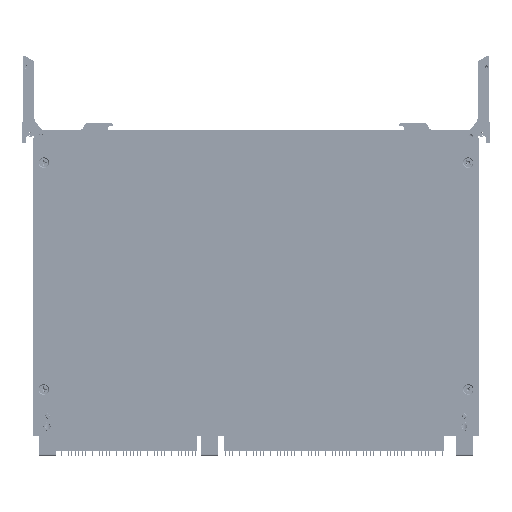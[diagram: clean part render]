
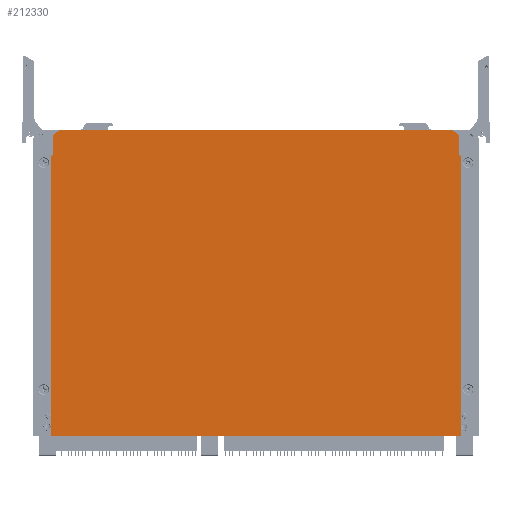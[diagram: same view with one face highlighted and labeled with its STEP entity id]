
A CAD part, left-side view. The second image highlights one B-rep face of the part: STEP entity #212330.
In plain terms, the highlighted planar face has unit normal (-1, 0, 0) as drawn and (0, 1, 0) by its records, which use the part's own axes.
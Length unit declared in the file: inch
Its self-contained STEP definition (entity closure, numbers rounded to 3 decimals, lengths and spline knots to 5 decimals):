
#8544 = EDGE_CURVE ( 'NONE', #48399, #148004, #143914, .T. ) ;
#11153 = CARTESIAN_POINT ( 'NONE',  ( 4.16791, 0.11, 6.20913 ) ) ;
#11584 = CARTESIAN_POINT ( 'NONE',  ( -4.16791, 0.11, 6.20913 ) ) ;
#12592 = EDGE_CURVE ( 'NONE', #68062, #207496, #255963, .T. ) ;
#13932 = AXIS2_PLACEMENT_3D ( 'NONE', #84746, #233951, #106158 ) ;
#14094 = ORIENTED_EDGE ( 'NONE', *, *, #70584, .F. ) ;
#14168 = EDGE_CURVE ( 'NONE', #141771, #218588, #138589, .T. ) ;
#16994 = EDGE_CURVE ( 'NONE', #83313, #207496, #34519, .T. ) ;
#18198 = EDGE_CURVE ( 'NONE', #141771, #144205, #250459, .T. ) ;
#20337 = CARTESIAN_POINT ( 'NONE',  ( 4.05476, 0.11, 6.28836 ) ) ;
#22831 = DIRECTION ( 'NONE',  ( 0., 0., -1. ) ) ;
#23994 = EDGE_CURVE ( 'NONE', #174824, #38008, #182121, .T. ) ;
#24102 = ORIENTED_EDGE ( 'NONE', *, *, #254211, .F. ) ;
#28964 = CARTESIAN_POINT ( 'NONE',  ( 4.1935, 0.11, 5.79621 ) ) ;
#29237 = CARTESIAN_POINT ( 'NONE',  ( -4.221, 0.11, 5.76632 ) ) ;
#30932 = DIRECTION ( 'NONE',  ( 0., -1., 0. ) ) ;
#31793 = VECTOR ( 'NONE', #138446, 39.37008 ) ;
#34245 = EDGE_LOOP ( 'NONE', ( #76716, #106521, #175613, #163042, #24102, #232406, #14094, #247542, #181545, #242317, #271901, #150011, #53054, #151384 ) ) ;
#34519 = LINE ( 'NONE', #150626, #261380 ) ;
#36340 = EDGE_CURVE ( 'NONE', #219100, #193216, #41425, .T. ) ;
#37133 = CARTESIAN_POINT ( 'NONE',  ( 4.221, 0.11, 5.76632 ) ) ;
#38008 = VERTEX_POINT ( 'NONE', #79423 ) ;
#38427 = VERTEX_POINT ( 'NONE', #37133 ) ;
#41425 = CIRCLE ( 'NONE', #46411, 0.06 ) ;
#46411 = AXIS2_PLACEMENT_3D ( 'NONE', #236421, #108655, #257770 ) ;
#48399 = VERTEX_POINT ( 'NONE', #252387 ) ;
#49860 = CARTESIAN_POINT ( 'NONE',  ( 4.1935, 0.11, 5.79621 ) ) ;
#51103 = AXIS2_PLACEMENT_3D ( 'NONE', #192472, #64718, #213966 ) ;
#53054 = ORIENTED_EDGE ( 'NONE', *, *, #23994, .F. ) ;
#54284 = VECTOR ( 'NONE', #92381, 39.37008 ) ;
#58076 = DIRECTION ( 'NONE',  ( 0., 1., 0. ) ) ;
#61928 = CARTESIAN_POINT ( 'NONE',  ( -4.1935, 0.11, 6.15998 ) ) ;
#64718 = DIRECTION ( 'NONE',  ( 0., 1., 0. ) ) ;
#64831 = VERTEX_POINT ( 'NONE', #49860 ) ;
#66837 = LINE ( 'NONE', #68448, #230355 ) ;
#68062 = VERTEX_POINT ( 'NONE', #133148 ) ;
#68448 = CARTESIAN_POINT ( 'NONE',  ( -4.221, 0.11, 6.29921 ) ) ;
#68833 = DIRECTION ( 'NONE',  ( 0., 0., -1. ) ) ;
#70584 = EDGE_CURVE ( 'NONE', #64831, #219100, #167821, .T. ) ;
#73844 = AXIS2_PLACEMENT_3D ( 'NONE', #153784, #196622, #68833 ) ;
#76716 = ORIENTED_EDGE ( 'NONE', *, *, #14168, .F. ) ;
#79261 = CARTESIAN_POINT ( 'NONE',  ( -4.221, 0.11, 0. ) ) ;
#79423 = CARTESIAN_POINT ( 'NONE',  ( -4.1935, 0.11, 5.79621 ) ) ;
#83313 = VERTEX_POINT ( 'NONE', #29237 ) ;
#83515 = VECTOR ( 'NONE', #168433, 39.37008 ) ;
#84746 = CARTESIAN_POINT ( 'NONE',  ( -4.2235, 0.11, 5.79621 ) ) ;
#85122 = CARTESIAN_POINT ( 'NONE',  ( -4.1935, 0.11, 5.79621 ) ) ;
#92381 = DIRECTION ( 'NONE',  ( 0., 0., 1. ) ) ;
#94673 = EDGE_CURVE ( 'NONE', #38427, #68062, #137039, .T. ) ;
#96202 = CIRCLE ( 'NONE', #13932, 0.03 ) ;
#105201 = CARTESIAN_POINT ( 'NONE',  ( -4.02034, 0.11, 6.23921 ) ) ;
#106158 = DIRECTION ( 'NONE',  ( 0., 0., -1. ) ) ;
#106521 = ORIENTED_EDGE ( 'NONE', *, *, #18198, .T. ) ;
#108655 = DIRECTION ( 'NONE',  ( 0., -1., 0. ) ) ;
#126682 = DIRECTION ( 'NONE',  ( 0., 0., -1. ) ) ;
#133148 = CARTESIAN_POINT ( 'NONE',  ( 4.221, 0.11, 0. ) ) ;
#136100 = CARTESIAN_POINT ( 'NONE',  ( -4.05476, 0.11, 6.28836 ) ) ;
#136782 = FACE_OUTER_BOUND ( 'NONE', #34245, .T. ) ;
#137039 = LINE ( 'NONE', #159964, #243781 ) ;
#138446 = DIRECTION ( 'NONE',  ( -0.819, 0., -0.574 ) ) ;
#138589 = LINE ( 'NONE', #11584, #31793 ) ;
#141771 = VERTEX_POINT ( 'NONE', #136100 ) ;
#141974 = EDGE_CURVE ( 'NONE', #38008, #83313, #96202, .T. ) ;
#143914 = CIRCLE ( 'NONE', #145243, 0.06 ) ;
#144205 = VERTEX_POINT ( 'NONE', #269260 ) ;
#145243 = AXIS2_PLACEMENT_3D ( 'NONE', #185880, #58076, #207351 ) ;
#148004 = VERTEX_POINT ( 'NONE', #20337 ) ;
#150011 = ORIENTED_EDGE ( 'NONE', *, *, #141974, .F. ) ;
#150626 = CARTESIAN_POINT ( 'NONE',  ( -4.221, 0.11, 6.29921 ) ) ;
#151384 = ORIENTED_EDGE ( 'NONE', *, *, #249279, .F. ) ;
#153400 = DIRECTION ( 'NONE',  ( -1., 0., 0. ) ) ;
#153784 = CARTESIAN_POINT ( 'NONE',  ( -4.221, 0.11, 6.29921 ) ) ;
#158768 = CARTESIAN_POINT ( 'NONE',  ( -4.1335, 0.11, 6.15998 ) ) ;
#159964 = CARTESIAN_POINT ( 'NONE',  ( 4.221, 0.11, 6.29921 ) ) ;
#163042 = ORIENTED_EDGE ( 'NONE', *, *, #8544, .T. ) ;
#167821 = LINE ( 'NONE', #28964, #54284 ) ;
#168433 = DIRECTION ( 'NONE',  ( -0.819, 0., 0.574 ) ) ;
#174824 = VERTEX_POINT ( 'NONE', #61928 ) ;
#175154 = PLANE ( 'NONE',  #73844 ) ;
#175605 = EDGE_CURVE ( 'NONE', #38427, #64831, #220418, .T. ) ;
#175613 = ORIENTED_EDGE ( 'NONE', *, *, #241225, .F. ) ;
#175909 = CARTESIAN_POINT ( 'NONE',  ( -4.16791, 0.11, 6.20913 ) ) ;
#180123 = DIRECTION ( 'NONE',  ( 0., 0., -1. ) ) ;
#181545 = ORIENTED_EDGE ( 'NONE', *, *, #94673, .T. ) ;
#182121 = LINE ( 'NONE', #85122, #188803 ) ;
#182751 = AXIS2_PLACEMENT_3D ( 'NONE', #105201, #254374, #126682 ) ;
#185880 = CARTESIAN_POINT ( 'NONE',  ( 4.02034, 0.11, 6.23921 ) ) ;
#188422 = CARTESIAN_POINT ( 'NONE',  ( -4.221, 0.11, 0. ) ) ;
#188803 = VECTOR ( 'NONE', #234322, 39.37008 ) ;
#192472 = CARTESIAN_POINT ( 'NONE',  ( 4.2235, 0.11, 5.79621 ) ) ;
#193216 = VERTEX_POINT ( 'NONE', #11153 ) ;
#196622 = DIRECTION ( 'NONE',  ( 0., -1., 0. ) ) ;
#196686 = AXIS2_PLACEMENT_3D ( 'NONE', #158768, #30932, #180123 ) ;
#203606 = LINE ( 'NONE', #230936, #83515 ) ;
#207351 = DIRECTION ( 'NONE',  ( 0., 0., -1. ) ) ;
#207496 = VERTEX_POINT ( 'NONE', #79261 ) ;
#209936 = DIRECTION ( 'NONE',  ( -1., 0., 0. ) ) ;
#212330 = ADVANCED_FACE ( 'NONE', ( #136782 ), #175154, .F. ) ;
#213966 = DIRECTION ( 'NONE',  ( 0., 0., 1. ) ) ;
#214842 = CARTESIAN_POINT ( 'NONE',  ( 4.1935, 0.11, 6.15998 ) ) ;
#218588 = VERTEX_POINT ( 'NONE', #175909 ) ;
#219100 = VERTEX_POINT ( 'NONE', #214842 ) ;
#220418 = CIRCLE ( 'NONE', #51103, 0.03 ) ;
#230355 = VECTOR ( 'NONE', #153400, 39.37008 ) ;
#230936 = CARTESIAN_POINT ( 'NONE',  ( 4.16791, 0.11, 6.20913 ) ) ;
#230954 = CIRCLE ( 'NONE', #196686, 0.06 ) ;
#232406 = ORIENTED_EDGE ( 'NONE', *, *, #36340, .F. ) ;
#233951 = DIRECTION ( 'NONE',  ( 0., 1., 0. ) ) ;
#234322 = DIRECTION ( 'NONE',  ( 0., 0., -1. ) ) ;
#236421 = CARTESIAN_POINT ( 'NONE',  ( 4.1335, 0.11, 6.15998 ) ) ;
#241225 = EDGE_CURVE ( 'NONE', #48399, #144205, #66837, .T. ) ;
#242317 = ORIENTED_EDGE ( 'NONE', *, *, #12592, .T. ) ;
#243781 = VECTOR ( 'NONE', #267106, 39.37008 ) ;
#247542 = ORIENTED_EDGE ( 'NONE', *, *, #175605, .F. ) ;
#249269 = VECTOR ( 'NONE', #209936, 39.37008 ) ;
#249279 = EDGE_CURVE ( 'NONE', #218588, #174824, #230954, .T. ) ;
#250459 = CIRCLE ( 'NONE', #182751, 0.06 ) ;
#252387 = CARTESIAN_POINT ( 'NONE',  ( 4.02034, 0.11, 6.29921 ) ) ;
#254211 = EDGE_CURVE ( 'NONE', #193216, #148004, #203606, .T. ) ;
#254374 = DIRECTION ( 'NONE',  ( 0., 1., 0. ) ) ;
#255963 = LINE ( 'NONE', #188422, #249269 ) ;
#257770 = DIRECTION ( 'NONE',  ( 0., 0., 1. ) ) ;
#261380 = VECTOR ( 'NONE', #22831, 39.37008 ) ;
#267106 = DIRECTION ( 'NONE',  ( 0., 0., -1. ) ) ;
#269260 = CARTESIAN_POINT ( 'NONE',  ( -4.02034, 0.11, 6.29921 ) ) ;
#271901 = ORIENTED_EDGE ( 'NONE', *, *, #16994, .F. ) ;
